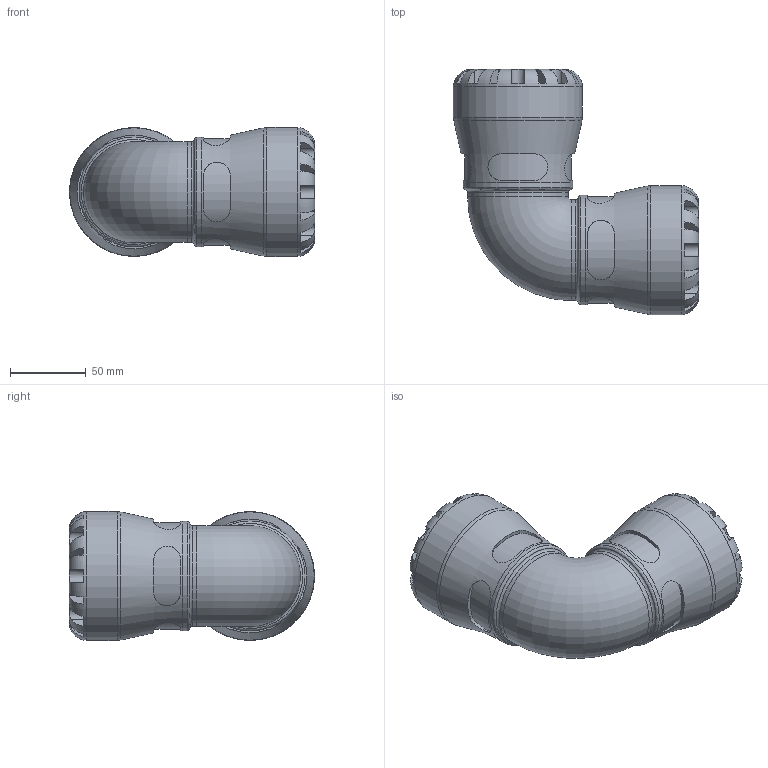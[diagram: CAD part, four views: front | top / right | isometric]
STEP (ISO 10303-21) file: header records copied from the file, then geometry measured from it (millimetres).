
FILE_DESCRIPTION(/* description */ ('PLASSON 90° ELBOW 50X50 SERIES 1'),/* implementation_level */ '2;1');
FILE_NAME(/* name */ 'C:\Dropbox\KIMPROJECTS-Inventor\99-16-3568-Processing\1005\100500050_190400050.ipt.stp',/* time_stamp */ '2017-01-22T11:44:23+02:00',/* author */ ('KIM'),/* organization */ (''),/* preprocessor_version */ 'ST-DEVELOPER v15.6',/* originating_system */ 'Autodesk Inventor 2015',/* authorisation */ '');
FILE_SCHEMA (('AUTOMOTIVE_DESIGN { 1 0 10303 214 3 1 1 }'));
Length unit declared in the file: millimetre
Products named in the file (1): 100500050_190400050
Bounding box: 161.5 x 161.5 x 85 mm (x, y, z)
Volume: 585319.9 mm3; surface area: 99265.9 mm2
Topology: 1 solids, 1 shells, 196 faces, 497 edges, 311 vertices
Faces by surface type: plane 116, cylinder 66, torus 12, cone 2
Full cylindrical faces by diameter (mm): 41.667 x2, 50 x2, 66.3 x2, 72.25 x2, 85 x2
Entity records: 7480 total; most frequent: CARTESIAN_POINT 2849, ORIENTED_EDGE 916, DIRECTION 894, EDGE_CURVE 458, AXIS2_PLACEMENT_3D 367, VERTEX_POINT 298, EDGE_LOOP 232, STYLED_ITEM 197
